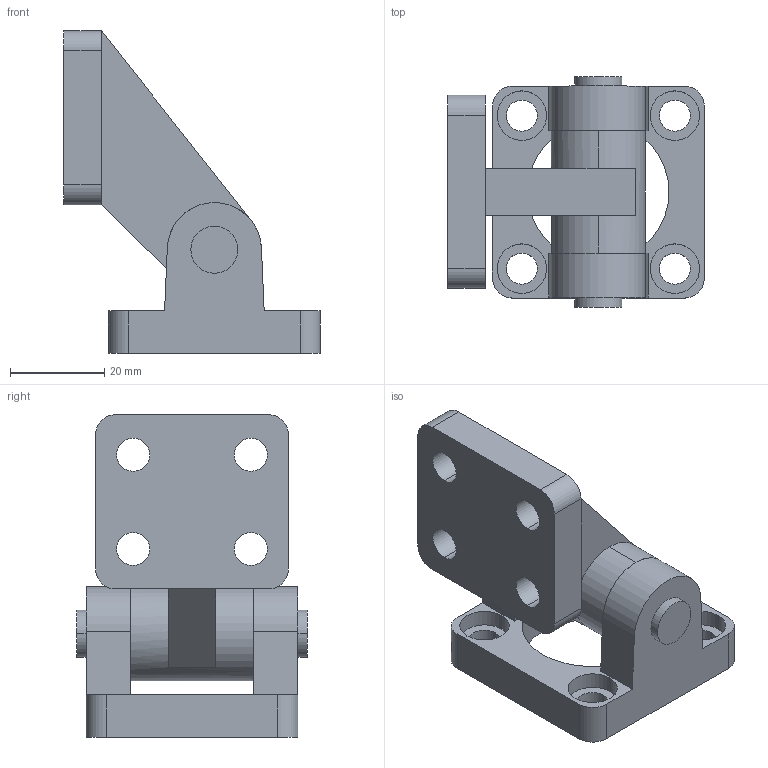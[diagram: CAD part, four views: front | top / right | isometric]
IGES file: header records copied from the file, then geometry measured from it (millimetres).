
Global section: file name: No Iges File Name specified; native system: AutoDesk Inventor R11.0; preprocessor: AutoDesk Inventor Iges Exporter R11.0; author: No Author specified; organization: No Organization specified; date: 20060712.122001; units: millimetre
Bounding box: 54.5 x 49 x 68.5 mm (x, y, z)
Volume: 43655.7 mm3; surface area: 17783.8 mm2
Topology: 2 solids, 2 shells, 80 faces, 207 edges, 136 vertices
Faces by surface type: bspline 34, plane 28, cylinder 18
